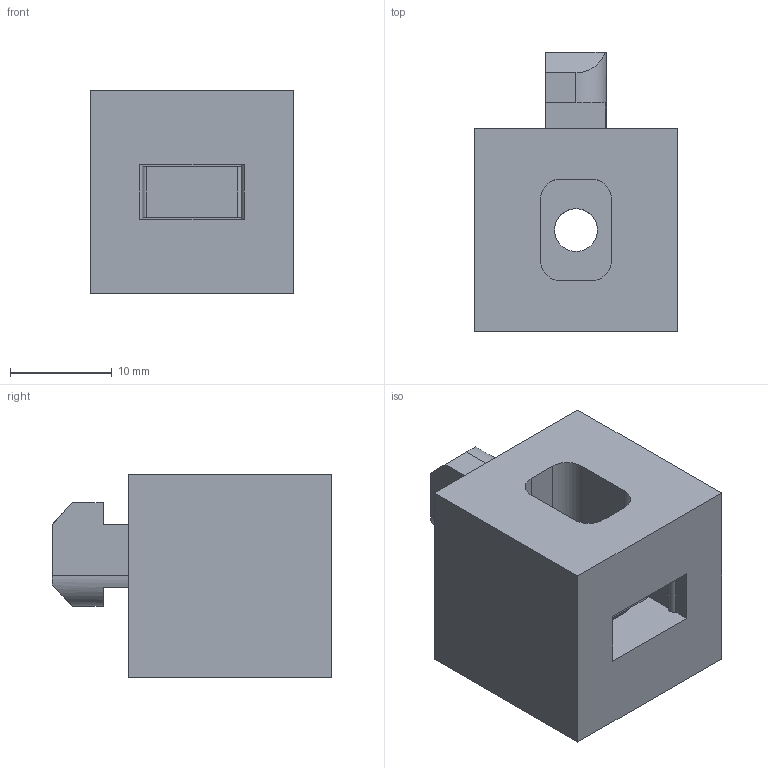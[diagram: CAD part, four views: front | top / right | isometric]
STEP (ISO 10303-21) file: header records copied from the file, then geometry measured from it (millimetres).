
FILE_DESCRIPTION (( 'STEP AP214' ), '1' );
FILE_NAME ('J3AP5.step', '2017-05-24T07:45:30', ( 'admin' ), ( '' ), 'SwSTEP 2.0', 'SolidWorks 2014', '' );
FILE_SCHEMA (( 'AUTOMOTIVE_DESIGN' ));
Length unit declared in the file: millimetre
Products named in the file (3): J3N5; J3APH; J3AP5
Assembly tree (2 placements, depth 2):
  J3AP5
    J3APH
    J3N5
Bounding box: 20 x 27.5 x 20 mm (x, y, z)
Volume: 6873.7 mm3; surface area: 3780.7 mm2
Topology: 2 solids, 2 shells, 57 faces, 153 edges, 102 vertices
Faces by surface type: plane 38, cylinder 19
Entity records: 1931 total; most frequent: CARTESIAN_POINT 323, DIRECTION 315, ORIENTED_EDGE 306, EDGE_CURVE 153, LINE 111, VECTOR 111, AXIS2_PLACEMENT_3D 102, VERTEX_POINT 102
